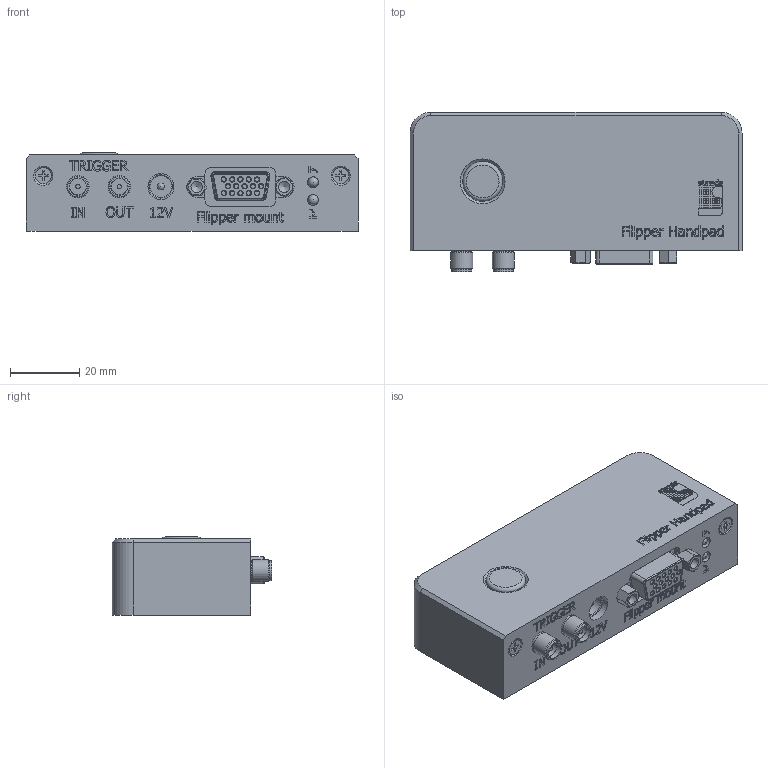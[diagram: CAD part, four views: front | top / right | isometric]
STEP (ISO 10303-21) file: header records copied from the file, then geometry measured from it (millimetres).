
FILE_DESCRIPTION(/* description */ (''),/* implementation_level */ '2;1');
FILE_NAME(/* name */ 'U:\KONSTRUKTORIAI\DOKUMENTACIJA\8\8MFM-1\Inventor\8MFM-RC1\STEP\8MFM-RC3 SB.stp',/* time_stamp */ '2020-12-08T06:34:20+02:00',/* author */ ('dsgn32'),/* organization */ (''),/* preprocessor_version */ 'ST-DEVELOPER v15.2',/* originating_system */ 'Autodesk Inventor 2014',/* authorisation */ '');
FILE_SCHEMA (('AUTOMOTIVE_DESIGN { 1 0 10303 214 3 1 1 }'));
Length unit declared in the file: millimetre
Products named in the file (1): 8MFM-RC3 SB
Bounding box: 96 x 46.1 x 22.6 mm (x, y, z)
Volume: 84126.1 mm3; surface area: 15651.6 mm2
Topology: 1 solids, 7 shells, 1259 faces, 3114 edges, 2064 vertices
Faces by surface type: plane 684, bspline 309, cylinder 207, cone 32, torus 24, sphere 3
Full cylindrical faces by diameter (mm): 0.206 x85, 1.27 x17, 2 x1, 2.5 x6, 2.9 x6, 3.2 x4, 3.302 x2, 4.8 x2, 5 x2, 5.8 x4, 6.3 x1, 6.35 x4, 6.5 x2, 7.5 x1, 11.5 x1, 11.6 x1
Entity records: 40299 total; most frequent: CARTESIAN_POINT 11704, ORIENTED_EDGE 5828, DIRECTION 4602, EDGE_CURVE 2912, VERTEX_POINT 2032, LINE 1804, VECTOR 1804, EDGE_LOOP 1636
